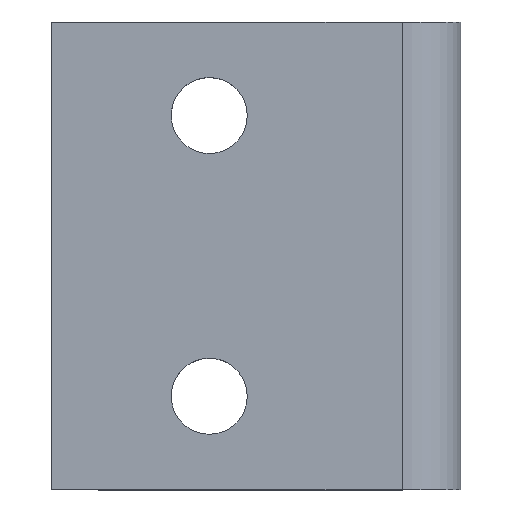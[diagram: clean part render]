
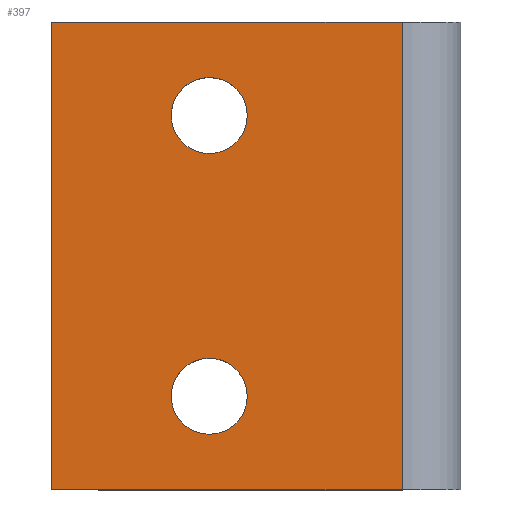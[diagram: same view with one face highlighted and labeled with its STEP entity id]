
A CAD part, top view. The second image highlights one B-rep face of the part: STEP entity #397.
In plain terms, the highlighted planar face has unit normal (0, 0, 1).
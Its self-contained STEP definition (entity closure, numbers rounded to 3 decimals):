
#19=DIRECTION('',(1.,0.,0.));
#20=VECTOR('',#19,30.);
#21=CARTESIAN_POINT('',(-30.,-20.,0.));
#22=LINE('',#21,#20);
#41=DIRECTION('',(1.,0.,0.));
#42=VECTOR('',#41,30.);
#43=CARTESIAN_POINT('',(-30.,20.,0.));
#44=LINE('',#43,#42);
#62=DIRECTION('',(0.,1.,0.));
#63=VECTOR('',#62,40.);
#64=CARTESIAN_POINT('',(0.,-20.,0.));
#65=LINE('',#64,#63);
#87=DIRECTION('',(0.,1.,0.));
#88=VECTOR('',#87,40.);
#89=CARTESIAN_POINT('',(-30.,-20.,0.));
#90=LINE('',#89,#88);
#91=CARTESIAN_POINT('',(-16.5,-12.,0.));
#92=DIRECTION('',(0.,0.,-1.));
#93=DIRECTION('',(1.,0.,0.));
#94=AXIS2_PLACEMENT_3D('',#91,#92,#93);
#96=CARTESIAN_POINT('',(-16.5,-12.,0.));
#97=DIRECTION('',(0.,0.,-1.));
#98=DIRECTION('',(-1.,0.,0.));
#99=AXIS2_PLACEMENT_3D('',#96,#97,#98);
#101=CARTESIAN_POINT('',(-16.5,12.,0.));
#102=DIRECTION('',(0.,0.,-1.));
#103=DIRECTION('',(1.,0.,0.));
#104=AXIS2_PLACEMENT_3D('',#101,#102,#103);
#106=CARTESIAN_POINT('',(-16.5,12.,0.));
#107=DIRECTION('',(0.,0.,-1.));
#108=DIRECTION('',(-1.,0.,0.));
#109=AXIS2_PLACEMENT_3D('',#106,#107,#108);
#183=CARTESIAN_POINT('',(-30.,-20.,0.));
#184=CARTESIAN_POINT('',(-30.,20.,0.));
#185=VERTEX_POINT('',#183);
#186=VERTEX_POINT('',#184);
#199=CARTESIAN_POINT('',(0.,-20.,0.));
#200=VERTEX_POINT('',#199);
#201=CARTESIAN_POINT('',(0.,20.,0.));
#202=VERTEX_POINT('',#201);
#211=CARTESIAN_POINT('',(-13.25,-12.,0.));
#212=CARTESIAN_POINT('',(-19.75,-12.,0.));
#213=VERTEX_POINT('',#211);
#214=VERTEX_POINT('',#212);
#215=CARTESIAN_POINT('',(-13.25,12.,0.));
#216=CARTESIAN_POINT('',(-19.75,12.,0.));
#217=VERTEX_POINT('',#215);
#218=VERTEX_POINT('',#216);
#374=CARTESIAN_POINT('',(-30.,-20.,0.));
#375=DIRECTION('',(0.,0.,1.));
#376=DIRECTION('',(1.,0.,0.));
#377=AXIS2_PLACEMENT_3D('',#374,#375,#376);
#378=PLANE('',#377);
#379=ORIENTED_EDGE('',*,*,#317,.F.);
#380=ORIENTED_EDGE('',*,*,#248,.F.);
#381=ORIENTED_EDGE('',*,*,#369,.T.);
#382=ORIENTED_EDGE('',*,*,#294,.T.);
#383=EDGE_LOOP('',(#379,#380,#381,#382));
#384=FACE_OUTER_BOUND('',#383,.F.);
#386=ORIENTED_EDGE('',*,*,#385,.F.);
#388=ORIENTED_EDGE('',*,*,#387,.F.);
#389=EDGE_LOOP('',(#386,#388));
#390=FACE_BOUND('',#389,.F.);
#392=ORIENTED_EDGE('',*,*,#391,.F.);
#394=ORIENTED_EDGE('',*,*,#393,.F.);
#395=EDGE_LOOP('',(#392,#394));
#396=FACE_BOUND('',#395,.F.);
#397=ADVANCED_FACE('',(#384,#390,#396),#378,.T.);
#95=CIRCLE('',#94,3.25);
#100=CIRCLE('',#99,3.25);
#105=CIRCLE('',#104,3.25);
#110=CIRCLE('',#109,3.25);
#248=EDGE_CURVE('',#185,#200,#22,.T.);
#294=EDGE_CURVE('',#186,#202,#44,.T.);
#317=EDGE_CURVE('',#200,#202,#65,.T.);
#369=EDGE_CURVE('',#185,#186,#90,.T.);
#385=EDGE_CURVE('',#213,#214,#95,.T.);
#387=EDGE_CURVE('',#214,#213,#100,.T.);
#391=EDGE_CURVE('',#217,#218,#105,.T.);
#393=EDGE_CURVE('',#218,#217,#110,.T.);
